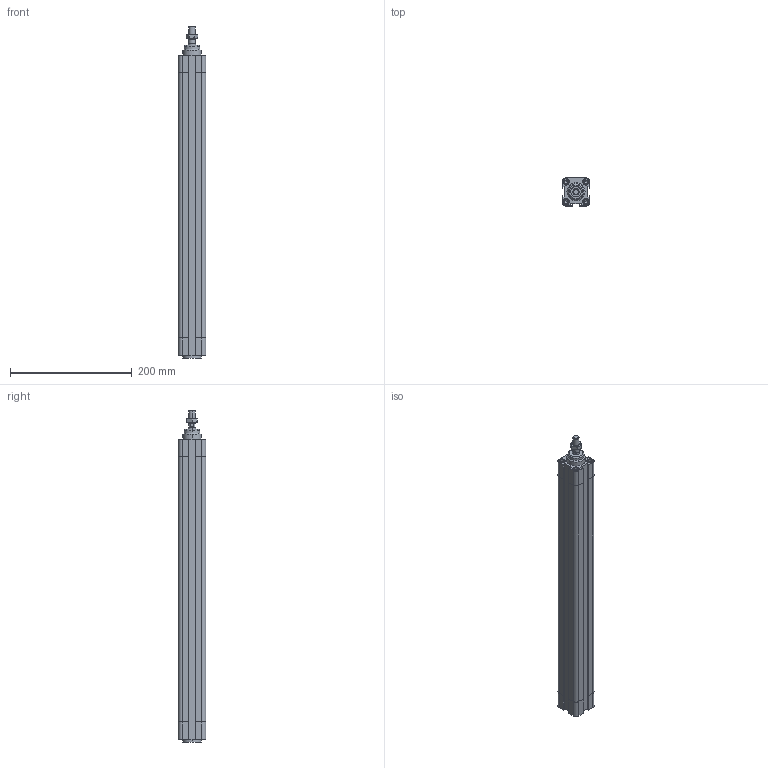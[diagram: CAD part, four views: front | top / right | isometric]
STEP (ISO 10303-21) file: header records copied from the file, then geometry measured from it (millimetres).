
FILE_DESCRIPTION((''),'2;1');
FILE_NAME('F:\Lib-3d\1380\CIL\1380_32_0400_01.stp','2004-01-07T16:00:24',('maffial1'),(''),'Autodesk Inventor 8','Autodesk Inventor 8','');
FILE_SCHEMA(('AUTOMOTIVE_DESIGN { 1 0 10303 214 1 1 1 1 }'));
Length unit declared in the file: millimetre
Products named in the file (4): 1380_32_0400_01; CPP01_32_400; CPP02_32_400; 1320_32_18F
Assembly tree (3 placements, depth 2):
  1380_32_0400_01
    CPP01_32_400
    CPP02_32_400
    1320_32_18F
Bounding box: 46 x 46 x 546 mm (x, y, z)
Volume: 931649.1 mm3; surface area: 154261.3 mm2
Topology: 3 solids, 3 shells, 244 faces, 570 edges, 356 vertices
Faces by surface type: plane 83, bspline 67, cylinder 58, cone 34, torus 2
Entity records: 7668 total; most frequent: CARTESIAN_POINT 2166, DIRECTION 1136, ORIENTED_EDGE 1108, EDGE_CURVE 554, AXIS2_PLACEMENT_3D 422, VERTEX_POINT 356, VECTOR 292, LINE 292
